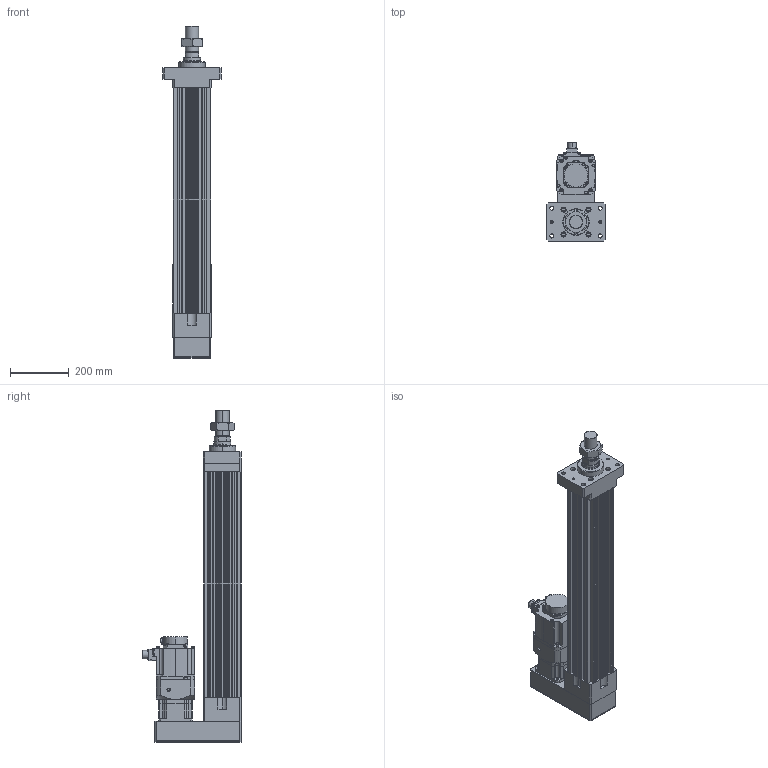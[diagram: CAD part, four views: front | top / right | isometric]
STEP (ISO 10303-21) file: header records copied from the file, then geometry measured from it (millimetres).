
FILE_DESCRIPTION (( 'STEP AP203' ), '1' );
FILE_NAME ('HES130NS(FS)(HS)-P550-W015G00-M-FMA.STEP', '2023-01-29T04:53:22', ( 'tms' ), ( '' ), 'SwSTEP 2.0', 'SolidWorks 2013', '' );
FILE_SCHEMA (( 'CONFIG_CONTROL_DESIGN' ));
Length unit declared in the file: millimetre
Products named in the file (8): HG-SR152; AB1151; M45X1.5P; HES130-P550-G120-FMA; AB115-003[HG-SR152]; HES130 ROD M ST550; HES130NS(FS)(HS)-P550-W015G00-M-FMA; P0401400706
Assembly tree (7 placements, depth 3):
  HES130NS(FS)(HS)-P550-W015G00-M-FMA
    HES130-P550-G120-FMA
    HES130 ROD M ST550
    M45X1.5P
    AB115-003[HG-SR152]
      AB1151
      P0401400706
    HG-SR152
Bounding box: 200 x 337.49 x 1132 mm (x, y, z)
Volume: 12846418.7 mm3; surface area: 1551533.8 mm2
Topology: 4 solids, 11 shells, 1082 faces, 2768 edges, 1799 vertices
Faces by surface type: cylinder 513, plane 489, cone 68, bspline 8, torus 4
Entity records: 34626 total; most frequent: CARTESIAN_POINT 6632, DIRECTION 5993, ORIENTED_EDGE 5484, EDGE_CURVE 2752, AXIS2_PLACEMENT_3D 2228, VERTEX_POINT 1799, VECTOR 1537, LINE 1537
